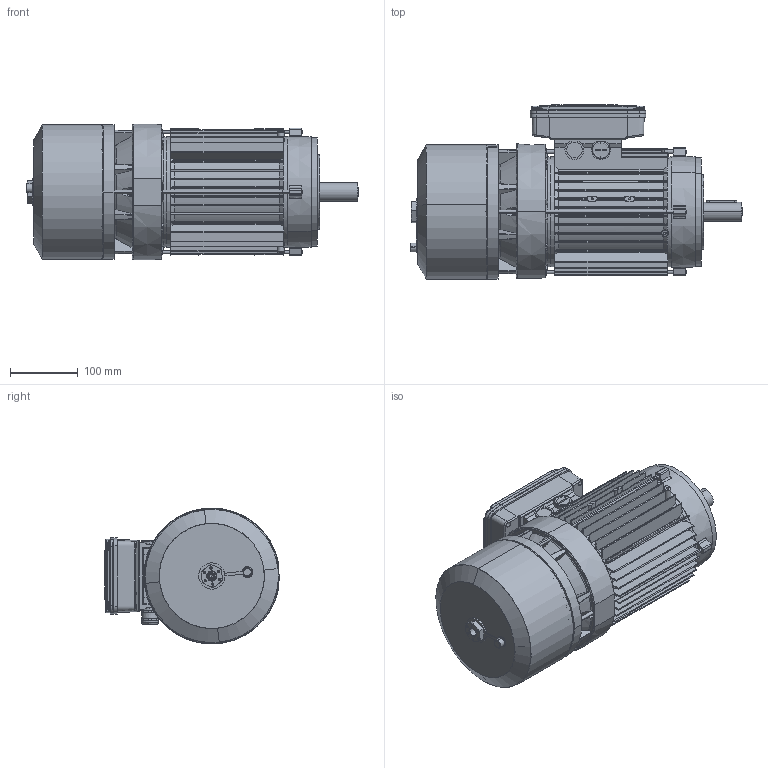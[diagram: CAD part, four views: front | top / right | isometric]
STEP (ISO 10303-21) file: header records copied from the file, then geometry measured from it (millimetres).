
FILE_DESCRIPTION (( 'STEP AP214' ), '1' );
FILE_NAME ('BA 100 B14 - DM.STEP', '2020-06-20T02:13:25', ( '' ), ( '' ), 'SwSTEP 2.0', 'SolidWorks 2016', '' );
FILE_SCHEMA (( 'AUTOMOTIVE_DESIGN' ));
Length unit declared in the file: millimetre
Products named in the file (1): BA 100 B14 - DM
Bounding box: 488.5 x 256.3 x 199.95 mm (x, y, z)
Surface area: 1170515.6 mm2 (no closed solid volume)
Topology: 0 solids, 60 shells, 2954 faces, 8512 edges, 5586 vertices
Faces by surface type: plane 1044, cylinder 902, bspline 674, cone 330, torus 4
Entity records: 163420 total; most frequent: CARTESIAN_POINT 59812, ORIENTED_EDGE 16186, DIRECTION 12705, EDGE_CURVE 8462, VERTEX_POINT 5586, AXIS2_PLACEMENT_3D 4583, VECTOR 3539, LINE 3539
